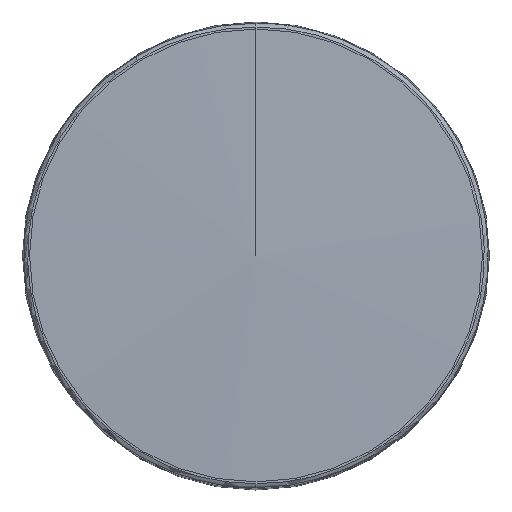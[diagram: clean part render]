
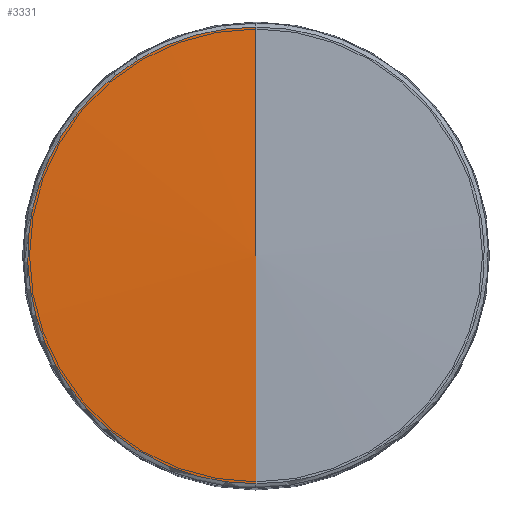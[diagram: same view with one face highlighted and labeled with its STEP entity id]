
A CAD part, top view. The second image highlights one B-rep face of the part: STEP entity #3331.
In plain terms, the highlighted spherical face has radius 1077.38 mm.
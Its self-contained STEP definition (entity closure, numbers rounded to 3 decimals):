
#34=SPHERICAL_SURFACE('',#3644,1077.38);
#151=B_SPLINE_CURVE_WITH_KNOTS('',3,(#5917,#5918,#5919,#5920,#5921),
 .UNSPECIFIED.,.F.,.F.,(4,1,4),(0.,0.5,1.),
 .UNSPECIFIED.);
#153=B_SPLINE_CURVE_WITH_KNOTS('',3,(#5929,#5930,#5931,#5932,#5933,#5934,
#5935,#5936,#5937,#5938,#5939,#5940,#5941,#5942,#5943,#5944),
 .UNSPECIFIED.,.F.,.F.,(4,3,3,3,3,4),(0.,0.25,
0.49,0.729,0.969,1.),
 .UNSPECIFIED.);
#154=B_SPLINE_CURVE_WITH_KNOTS('',3,(#5946,#5947,#5948,#5949,#5950,#5951,
#5952,#5953,#5954,#5955,#5956,#5957,#5958,#5959,#5960,#5961),
 .UNSPECIFIED.,.F.,.F.,(4,3,3,3,3,4),(0.,0.25,
0.49,0.729,0.969,1.),.UNSPECIFIED.);
#157=B_SPLINE_CURVE_WITH_KNOTS('',3,(#5978,#5979,#5980,#5981),
 .UNSPECIFIED.,.F.,.F.,(4,4),(0.,0.125),.UNSPECIFIED.);
#158=B_SPLINE_CURVE_WITH_KNOTS('',3,(#5983,#5984,#5985,#5986),
 .UNSPECIFIED.,.F.,.F.,(4,4),(0.875,1.),.UNSPECIFIED.);
#159=B_SPLINE_CURVE_WITH_KNOTS('',3,(#5987,#5988,#5989,#5990,#5991,#5992,
#5993,#5994,#5995),.UNSPECIFIED.,.F.,.F.,(4,1,1,1,1,1,4),(0.125,0.25,0.375,
0.5,0.625,0.75,0.875),.UNSPECIFIED.);
#413=FACE_OUTER_BOUND('',#629,.T.);
#629=EDGE_LOOP('',(#2591,#2592,#2593,#2594,#2595,#2596));
#1467=VERTEX_POINT('',#5877);
#1468=VERTEX_POINT('',#5878);
#1469=VERTEX_POINT('',#5923);
#1471=VERTEX_POINT('',#5945);
#1473=VERTEX_POINT('',#5977);
#1474=VERTEX_POINT('',#5982);
#1862=EDGE_CURVE('',#1468,#1467,#151,.T.);
#1864=EDGE_CURVE('',#1467,#1469,#153,.T.);
#1865=EDGE_CURVE('',#1471,#1468,#154,.T.);
#1868=EDGE_CURVE('',#1471,#1473,#157,.T.);
#1869=EDGE_CURVE('',#1474,#1469,#158,.T.);
#1870=EDGE_CURVE('',#1473,#1474,#159,.T.);
#2591=ORIENTED_EDGE('',*,*,#1868,.F.);
#2592=ORIENTED_EDGE('',*,*,#1865,.T.);
#2593=ORIENTED_EDGE('',*,*,#1862,.T.);
#2594=ORIENTED_EDGE('',*,*,#1864,.T.);
#2595=ORIENTED_EDGE('',*,*,#1869,.F.);
#2596=ORIENTED_EDGE('',*,*,#1870,.F.);
#3331=ADVANCED_FACE('',(#413),#34,.T.);
#3644=AXIS2_PLACEMENT_3D('',#5976,#4321,#4322);
#4321=DIRECTION('center_axis',(0.,0.,1.));
#4322=DIRECTION('ref_axis',(0.,-1.,0.));
#5877=CARTESIAN_POINT('',(0.,0.02,797.505));
#5878=CARTESIAN_POINT('',(0.,-0.02,797.505));
#5917=CARTESIAN_POINT('Ctrl Pts',(0.,-0.02,
798.505));
#5918=CARTESIAN_POINT('Ctrl Pts',(-0.013,-0.013,
798.505));
#5919=CARTESIAN_POINT('Ctrl Pts',(-0.027,0.,
798.505));
#5920=CARTESIAN_POINT('Ctrl Pts',(-0.013,0.013,
798.505));
#5921=CARTESIAN_POINT('Ctrl Pts',(0.,0.02,
798.505));
#5923=CARTESIAN_POINT('',(0.,79.196,795.591));
#5929=CARTESIAN_POINT('Ctrl Pts',(0.,0.02,
798.505));
#5930=CARTESIAN_POINT('Ctrl Pts',(0.,6.627,
798.505));
#5931=CARTESIAN_POINT('Ctrl Pts',(0.,13.232,
798.444));
#5932=CARTESIAN_POINT('Ctrl Pts',(0.,19.834,
798.323));
#5933=CARTESIAN_POINT('Ctrl Pts',(0.,26.166,
798.206));
#5934=CARTESIAN_POINT('Ctrl Pts',(0.,32.497,
798.034));
#5935=CARTESIAN_POINT('Ctrl Pts',(0.,38.825,
797.806));
#5936=CARTESIAN_POINT('Ctrl Pts',(0.,45.142,
797.578));
#5937=CARTESIAN_POINT('Ctrl Pts',(0.,51.457,
797.295));
#5938=CARTESIAN_POINT('Ctrl Pts',(0.,57.77,
796.956));
#5939=CARTESIAN_POINT('Ctrl Pts',(0.,64.093,
796.616));
#5940=CARTESIAN_POINT('Ctrl Pts',(0.,70.413,
796.221));
#5941=CARTESIAN_POINT('Ctrl Pts',(0.,76.732,
795.77));
#5942=CARTESIAN_POINT('Ctrl Pts',(0.,77.553,
795.711));
#5943=CARTESIAN_POINT('Ctrl Pts',(0.,78.375,
795.651));
#5944=CARTESIAN_POINT('Ctrl Pts',(0.,79.196,
795.591));
#5945=CARTESIAN_POINT('',(0.,-79.196,795.591));
#5946=CARTESIAN_POINT('Ctrl Pts',(0.,-79.196,
795.591));
#5947=CARTESIAN_POINT('Ctrl Pts',(0.,-72.607,
796.076));
#5948=CARTESIAN_POINT('Ctrl Pts',(0.,-66.015,
796.501));
#5949=CARTESIAN_POINT('Ctrl Pts',(0.,-59.422,
796.866));
#5950=CARTESIAN_POINT('Ctrl Pts',(0.,-53.098,
797.215));
#5951=CARTESIAN_POINT('Ctrl Pts',(0.,-46.772,
797.508));
#5952=CARTESIAN_POINT('Ctrl Pts',(0.,-40.444,
797.746));
#5953=CARTESIAN_POINT('Ctrl Pts',(0.,-34.128,
797.983));
#5954=CARTESIAN_POINT('Ctrl Pts',(0.,-27.809,
798.165));
#5955=CARTESIAN_POINT('Ctrl Pts',(0.,-21.488,
798.291));
#5956=CARTESIAN_POINT('Ctrl Pts',(0.,-15.158,
798.417));
#5957=CARTESIAN_POINT('Ctrl Pts',(0.,-8.825,
798.488));
#5958=CARTESIAN_POINT('Ctrl Pts',(0.,-2.49,
798.503));
#5959=CARTESIAN_POINT('Ctrl Pts',(0.,-1.667,
798.505));
#5960=CARTESIAN_POINT('Ctrl Pts',(0.,-0.843,
798.505));
#5961=CARTESIAN_POINT('Ctrl Pts',(0.,-0.02,
798.505));
#5976=CARTESIAN_POINT('Origin',(0.,0.,
-278.874));
#5977=CARTESIAN_POINT('',(-30.307,-73.167,795.591));
#5978=CARTESIAN_POINT('Ctrl Pts',(0.,-79.196,
795.591));
#5979=CARTESIAN_POINT('Ctrl Pts',(-10.408,-79.3,795.591));
#5980=CARTESIAN_POINT('Ctrl Pts',(-20.742,-77.162,795.591));
#5981=CARTESIAN_POINT('Ctrl Pts',(-30.307,-73.167,795.591));
#5982=CARTESIAN_POINT('',(-30.307,73.167,795.591));
#5983=CARTESIAN_POINT('Ctrl Pts',(-30.307,73.167,795.591));
#5984=CARTESIAN_POINT('Ctrl Pts',(-20.742,77.162,795.591));
#5985=CARTESIAN_POINT('Ctrl Pts',(-10.408,79.3,795.591));
#5986=CARTESIAN_POINT('Ctrl Pts',(0.,79.196,
795.591));
#5987=CARTESIAN_POINT('Ctrl Pts',(-30.307,-73.167,795.591));
#5988=CARTESIAN_POINT('Ctrl Pts',(-39.872,-69.173,795.591));
#5989=CARTESIAN_POINT('Ctrl Pts',(-57.463,-57.471,795.591));
#5990=CARTESIAN_POINT('Ctrl Pts',(-75.071,-31.093,795.591));
#5991=CARTESIAN_POINT('Ctrl Pts',(-81.258,0.,
795.591));
#5992=CARTESIAN_POINT('Ctrl Pts',(-75.071,31.093,795.591));
#5993=CARTESIAN_POINT('Ctrl Pts',(-57.463,57.471,795.591));
#5994=CARTESIAN_POINT('Ctrl Pts',(-39.872,69.173,795.591));
#5995=CARTESIAN_POINT('Ctrl Pts',(-30.307,73.167,795.591));
